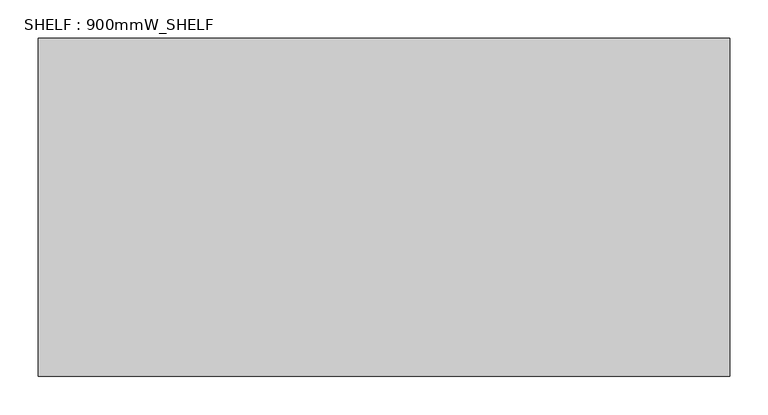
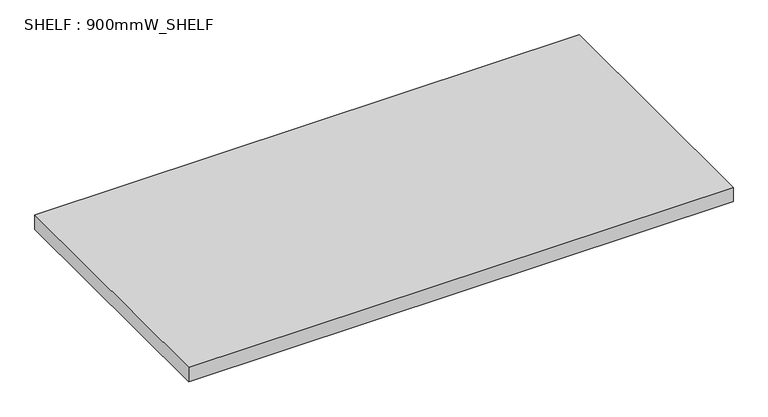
"""IFC4 building model written with IfcOpenShell, lengths in millimetres: furniture geometry, SHELF : 900mmW_SHELF."""

import ifcopenshell
import ifcopenshell.guid

model = None  # the IFC model being written
_history = None  # IfcOwnerHistory: only IFC2X3 demands one
_inside = {}  # id of a spatial element -> (the spatial element, [elements in it])
_under = {}  # id of a project, library or spatial element -> (it, [spatial elements below it])
_declared = {}  # id of a project -> (the project, [libraries it declares])
_typed = {}  # id of a type object -> (the type object, [elements of that type])
_made_of = {}  # id of a material, layer set ... -> (it, [elements and type objects made of it])


def new_model(schema):
    """Start an empty IFC model of exactly this schema.

    Asked for "IFC4X3", IfcOpenShell would pick the latest addendum, in which some entities
    have other attributes; the version numbers below select the first issue.
    IFC2X3 requires an IfcOwnerHistory on every rooted entity: one is made here for all.
    """
    global model, _history
    if schema == "IFC4X3":
        model = ifcopenshell.file(schema_version=(4, 3, 0, 0))
    else:
        model = ifcopenshell.file(schema=schema)
    _inside.clear()
    _under.clear()
    _declared.clear()
    _typed.clear()
    _made_of.clear()
    _history = None
    if model.schema == "IFC2X3":
        org = make("IfcOrganization", Name="unknown")
        user = make(
            "IfcPersonAndOrganization",
            ThePerson=make("IfcPerson", FamilyName="unknown"),
            TheOrganization=org,
        )
        app = make(
            "IfcApplication",
            ApplicationDeveloper=org,
            Version="unknown",
            ApplicationFullName="unknown",
            ApplicationIdentifier="unknown",
        )
        _history = make(
            "IfcOwnerHistory",
            OwningUser=user,
            OwningApplication=app,
            ChangeAction="ADDED",
            CreationDate=0,
        )
    return model


def make(cls, **values):
    """One entity of the class cls with the attributes given. An attribute that is None is left unset."""
    return model.create_entity(
        cls, **{name: value for name, value in values.items() if value is not None}
    )


def rooted(cls, **values):
    """An entity with a GlobalId (a new one), such as an element, a storey or a relation."""
    return make(cls, GlobalId=ifcopenshell.guid.new(), OwnerHistory=_history, **values)


def si_unit(unit_type, name, prefix=None):
    """IfcSIUnit, for example si_unit("LENGTHUNIT", "METRE", prefix="MILLI")."""
    return make("IfcSIUnit", UnitType=unit_type, Prefix=prefix, Name=name)


def assignment(units):
    """IfcUnitAssignment: the units of a project."""
    return None if units is None else make("IfcUnitAssignment", Units=units)


def point(xyz):
    """IfcCartesianPoint."""
    return None if xyz is None else make("IfcCartesianPoint", Coordinates=xyz)


def direction(xyz):
    """IfcDirection."""
    return None if xyz is None else make("IfcDirection", DirectionRatios=xyz)


def frame(location, z_axis=None, x_axis=None):
    """IfcAxis2Placement3D, a coordinate frame: its origin and axes. An axis left out is left unset."""
    return make(
        "IfcAxis2Placement3D",
        Location=point(location),
        Axis=direction(z_axis),
        RefDirection=direction(x_axis),
    )


def origin():
    """The frame at (0, 0, 0) with its axes left unset."""
    return frame((0.0, 0.0, 0.0))


def place(relative_to, where):
    """IfcLocalPlacement: puts the frame where relative to a parent placement (None: the world)."""
    return make(
        "IfcLocalPlacement", PlacementRelTo=relative_to, RelativePlacement=where
    )


def context(
    kind, dimensions, precision=None, world=None, true_north=None, identifier=None
):
    """IfcGeometricRepresentationContext, for example the 3D "Model" context."""
    return make(
        "IfcGeometricRepresentationContext",
        ContextIdentifier=identifier,
        ContextType=kind,
        CoordinateSpaceDimension=dimensions,
        Precision=precision,
        WorldCoordinateSystem=world,
        TrueNorth=true_north,
    )


def project(units=None, contexts=None):
    """IfcProject with its units and contexts."""
    return rooted(
        "IfcProject",
        Name="project",
        RepresentationContexts=contexts,
        UnitsInContext=assignment(units),
    )


def spatial(cls, under=None, at=None, **own):
    """A site, building, storey or space (cls), placed at a placement, below another one or the project."""
    s = rooted(cls, ObjectPlacement=at, **own)
    if under is not None:
        _under.setdefault(under.id(), (under, []))[1].append(s)
    return s


def polyline(points):
    """IfcPolyline through the points."""
    return make("IfcPolyline", Points=[point(p) for p in points])


def outline(outer, holes=None, kind="AREA"):
    """IfcArbitraryClosedProfileDef: a profile drawn as a closed curve; with holes, ...WithVoids."""
    if holes is None:
        return make("IfcArbitraryClosedProfileDef", ProfileType=kind, OuterCurve=outer)
    return make(
        "IfcArbitraryProfileDefWithVoids",
        ProfileType=kind,
        OuterCurve=outer,
        InnerCurves=holes,
    )


def extrude(swept, where, along, depth):
    """IfcExtrudedAreaSolid: the profile swept, set in the frame where, extruded along a direction by depth."""
    return make(
        "IfcExtrudedAreaSolid",
        SweptArea=swept,
        Position=where,
        ExtrudedDirection=direction(along),
        Depth=depth,
    )


def shape(context_of_items, identifier, shape_type, items):
    """IfcShapeRepresentation: the items that make up one representation, for example the "Body"."""
    return make(
        "IfcShapeRepresentation",
        ContextOfItems=context_of_items,
        RepresentationIdentifier=identifier,
        RepresentationType=shape_type,
        Items=items,
    )


def source(mapping_origin, context_of_items, identifier, shape_type, items):
    """IfcRepresentationMap: a shape defined once, which mapped items show again and again."""
    return make(
        "IfcRepresentationMap",
        MappingOrigin=mapping_origin,
        MappedRepresentation=shape(context_of_items, identifier, shape_type, items),
    )


def transform(
    local_origin,
    x_axis=None,
    y_axis=None,
    z_axis=None,
    scale=None,
    scale2=None,
    scale3=None,
    uniform=True,
):
    """IfcCartesianTransformationOperator3D, or its non-uniform kind. x_axis, y_axis, z_axis: its Axis1, 2, 3."""
    if uniform:
        return make(
            "IfcCartesianTransformationOperator3D",
            Axis1=direction(x_axis),
            Axis2=direction(y_axis),
            LocalOrigin=point(local_origin),
            Scale=scale,
            Axis3=direction(z_axis),
        )
    return make(
        "IfcCartesianTransformationOperator3DnonUniform",
        Axis1=direction(x_axis),
        Axis2=direction(y_axis),
        LocalOrigin=point(local_origin),
        Scale=scale,
        Axis3=direction(z_axis),
        Scale2=scale2,
        Scale3=scale3,
    )


def mapped(mapping_source, mapping_target):
    """IfcMappedItem: shows the shape of a source again, moved by a transform."""
    return make(
        "IfcMappedItem", MappingSource=mapping_source, MappingTarget=mapping_target
    )


def made_of(thing, what):
    """Note that an element or type object is made of a material, layer set ...; save() writes the relation."""
    if what is not None:
        _made_of.setdefault(what.id(), (what, []))[1].append(thing)
    return thing


def element(
    cls,
    number,
    at=None,
    inside=None,
    cuts=None,
    type_object=None,
    material=None,
    context=None,
    identifier="Body",
    shape_type=None,
    held_by="IfcProductDefinitionShape",
    body=None,
    shapes=None,
    **own,
):
    """One element of the class cls, such as IfcWall. Its Tag is "e" and its number.

    at: its placement. inside: the storey or other place that contains it. cuts: it is an
    opening in that element (IfcRelVoidsElement). A single representation is given by context,
    identifier, shape_type and body (its items); several are given by shapes. held_by: the class
    of the entity that holds the representations. save() writes the other relations.
    """
    e = rooted(cls, Tag="e%d" % number, ObjectPlacement=at, **own)
    if body is not None:
        shapes = [shape(context, identifier, shape_type, body)]
    if shapes is not None:
        e.Representation = make(held_by, Representations=shapes)
    if inside is not None:
        _inside.setdefault(inside.id(), (inside, []))[1].append(e)
    if cuts is not None:
        rooted(
            "IfcRelVoidsElement", RelatingBuildingElement=cuts, RelatedOpeningElement=e
        )
    if type_object is not None:
        _typed.setdefault(type_object.id(), (type_object, []))[1].append(e)
    return made_of(e, material)


def aggregate(whole, parts):
    """IfcRelAggregates: a whole, such as a stair, and the parts it consists of."""
    return rooted("IfcRelAggregates", RelatingObject=whole, RelatedObjects=parts)


def save(model, path):
    """Write the relations noted so far, then the file.

    IfcRelAggregates (storeys below a building ...), IfcRelContainedInSpatialStructure (elements
    in a storey), IfcRelDefinesByType, IfcRelAssociatesMaterial and IfcRelDeclares: one each for
    every whole, place, type object, material and project.
    """
    for whole, parts in _under.values():
        aggregate(whole, parts)
    for where, things in _inside.values():
        rooted(
            "IfcRelContainedInSpatialStructure",
            RelatedElements=things,
            RelatingStructure=where,
        )
    for kind, things in _typed.values():
        rooted("IfcRelDefinesByType", RelatedObjects=things, RelatingType=kind)
    for what, things in _made_of.values():
        rooted("IfcRelAssociatesMaterial", RelatedObjects=things, RelatingMaterial=what)
    for by, libraries in _declared.values():
        rooted("IfcRelDeclares", RelatingContext=by, RelatedDefinitions=libraries)
    model.write(path)


def shelf_900mmw_shelf_2218dd45(model_context):
    return source(origin(), model_context, "Body", "SweptSolid", [
        extrude(outline(polyline([(450.0, 220.0), (450.0, -220.0), (-450.0, -220.0), (-450.0, 220.0), (450.0, 220.0)])), frame((0.0, 0.0, -7.0), z_axis=(0.0, 0.0, 1.0), x_axis=(1.0, 0.0, 0.0)), (0.0, 0.0, 1.0), 25.0),
    ])


if __name__ == "__main__":
    model = new_model("IFC4")
    model_context = context("Model", 3, world=origin())
    ifc_project = project(units=[si_unit("LENGTHUNIT", "METRE", prefix="MILLI")], contexts=[model_context])
    site = spatial("IfcSite", under=ifc_project)
    building = spatial("IfcBuilding", under=site)
    placement = place(None, origin())
    shelf_900mmw_shelf_shape = shelf_900mmw_shelf_2218dd45(model_context)
    element("IfcFurniture", 1, ObjectType="SHELF : 900mmW_SHELF", at=placement, inside=building, context=model_context, shape_type="MappedRepresentation", body=[
        mapped(shelf_900mmw_shelf_shape, transform((0.0, 0.0, 0.0), x_axis=(1.0, 0.0, 0.0), y_axis=(0.0, 1.0, 0.0), z_axis=(0.0, 0.0, 1.0))),
    ])
    save(model, "model.ifc")
